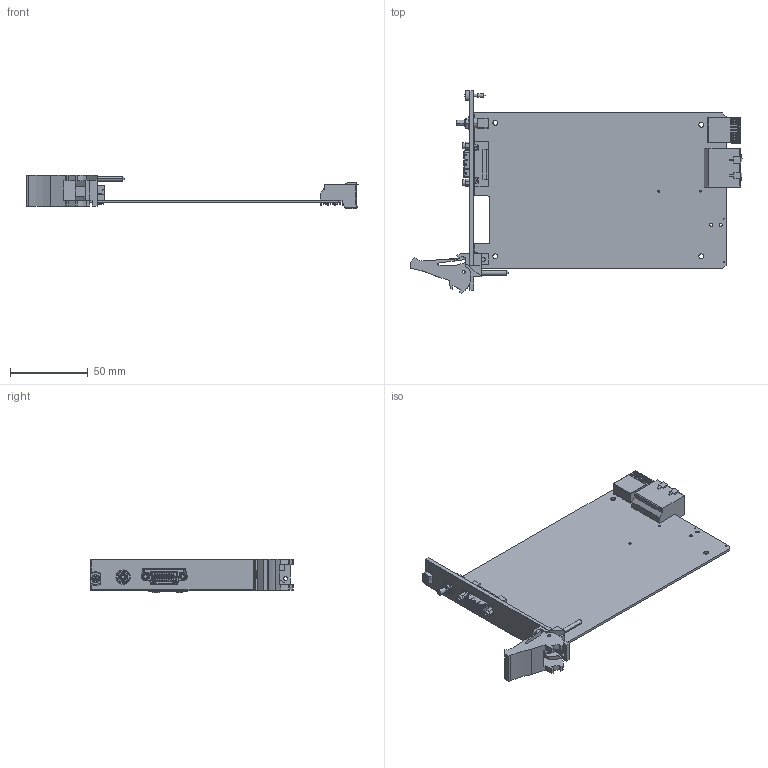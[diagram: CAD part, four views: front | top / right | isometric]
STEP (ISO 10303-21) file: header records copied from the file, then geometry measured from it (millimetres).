
FILE_DESCRIPTION((''),'2;1');
FILE_NAME('CU_PXIE-4492','2011-08-22T',('dkendric'),(''),'PRO/ENGINEER BY PARAMETRIC TECHNOLOGY CORPORATION, 2010230','PRO/ENGINEER BY PARAMETRIC TECHNOLOGY CORPORATION, 2010230','');
FILE_SCHEMA(('CONFIG_CONTROL_DESIGN'));
Products named in the file (1): CU_PXIE-4492
Bounding box: 213.88 x 130.5 x 21.8 mm (x, y, z)
Volume: 42658.7 mm3; surface area: 53022.3 mm2
Topology: 1 solids, 6 shells, 4452 faces, 12009 edges, 7763 vertices
Faces by surface type: plane 3707, cylinder 663, cone 36, bspline 22, torus 20, sphere 4
Entity records: 139704 total; most frequent: CARTESIAN_POINT 27365, ORIENTED_EDGE 23886, DIRECTION 21846, EDGE_CURVE 12007, VECTOR 10242, LINE 10242, VERTEX_POINT 7763, AXIS2_PLACEMENT_3D 5802
